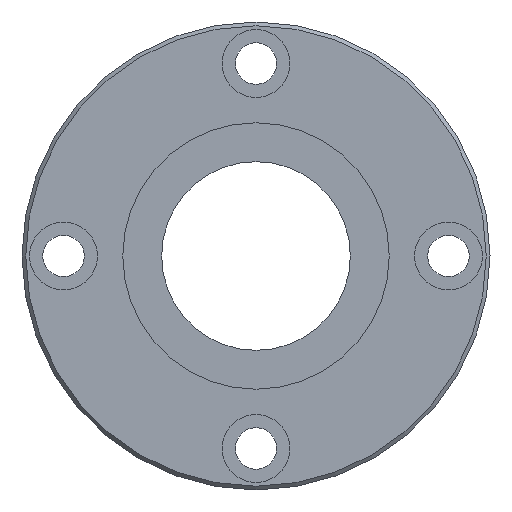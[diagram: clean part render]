
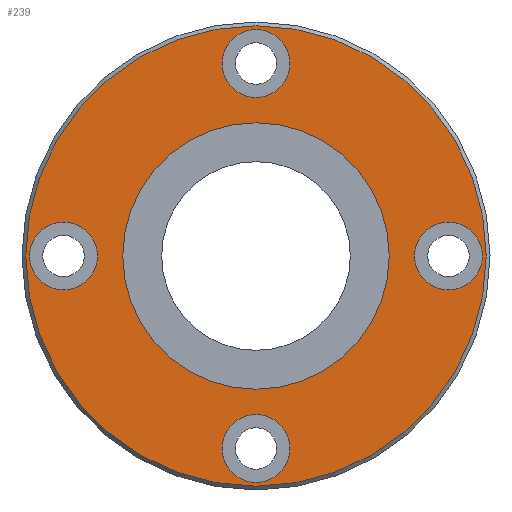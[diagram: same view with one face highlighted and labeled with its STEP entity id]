
A CAD part, left-side view. The second image highlights one B-rep face of the part: STEP entity #239.
In plain terms, the highlighted planar face has unit normal (-1, 0, 0).
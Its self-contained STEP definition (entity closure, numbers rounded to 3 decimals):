
#164=CARTESIAN_POINT('',(0.0,0.,30.5));
#165=VERTEX_POINT('',#164);
#166=CARTESIAN_POINT('',(0.0,0.0,0.0));
#167=DIRECTION('',(1.0,0.0,0.0));
#168=DIRECTION('',(0.0,0.0,-1.0));
#169=AXIS2_PLACEMENT_3D('',#166,#167,#168);
#170=CIRCLE('',#169,30.5);
#171=EDGE_CURVE('',#165,#165,#170,.T.);
#176=CARTESIAN_POINT('',(0.0,0.0,18.825));
#177=DIRECTION('',(-1.0,0.0,0.0));
#178=DIRECTION('',(0.0,0.0,1.0));
#179=AXIS2_PLACEMENT_3D('',#176,#177,#178);
#180=PLANE('',#179);
#181=ORIENTED_EDGE('',*,*,#171,.F.);
#182=EDGE_LOOP('',(#181));
#183=FACE_OUTER_BOUND('',#182,.T.);
#184=CARTESIAN_POINT('',(0.0,0.0,17.65));
#185=VERTEX_POINT('',#184);
#186=CARTESIAN_POINT('',(0.0,0.0,0.0));
#187=DIRECTION('',(-1.0,0.0,0.0));
#188=DIRECTION('',(0.0,0.0,1.0));
#189=AXIS2_PLACEMENT_3D('',#186,#187,#188);
#190=CIRCLE('',#189,17.65);
#191=EDGE_CURVE('',#185,#185,#190,.T.);
#192=ORIENTED_EDGE('',*,*,#191,.F.);
#193=EDGE_LOOP('',(#192));
#194=FACE_BOUND('',#193,.T.);
#195=CARTESIAN_POINT('',(0.0,30.,0.));
#196=VERTEX_POINT('',#195);
#197=CARTESIAN_POINT('',(0.0,25.5,0.));
#198=DIRECTION('',(1.0,0.0,0.0));
#199=DIRECTION('',(0.0,1.0,0.0));
#200=AXIS2_PLACEMENT_3D('',#197,#198,#199);
#201=CIRCLE('',#200,4.5);
#202=EDGE_CURVE('',#196,#196,#201,.T.);
#203=ORIENTED_EDGE('',*,*,#202,.T.);
#204=EDGE_LOOP('',(#203));
#205=FACE_BOUND('',#204,.T.);
#206=CARTESIAN_POINT('',(0.0,-21.0,0.));
#207=VERTEX_POINT('',#206);
#208=CARTESIAN_POINT('',(0.0,-25.5,0.));
#209=DIRECTION('',(1.0,0.0,0.0));
#210=DIRECTION('',(0.0,1.0,0.0));
#211=AXIS2_PLACEMENT_3D('',#208,#209,#210);
#212=CIRCLE('',#211,4.5);
#213=EDGE_CURVE('',#207,#207,#212,.T.);
#214=ORIENTED_EDGE('',*,*,#213,.T.);
#215=EDGE_LOOP('',(#214));
#216=FACE_BOUND('',#215,.T.);
#217=CARTESIAN_POINT('',(0.0,4.5,25.5));
#218=VERTEX_POINT('',#217);
#219=CARTESIAN_POINT('',(0.0,0.,25.5));
#220=DIRECTION('',(1.0,0.0,0.0));
#221=DIRECTION('',(0.0,1.0,0.0));
#222=AXIS2_PLACEMENT_3D('',#219,#220,#221);
#223=CIRCLE('',#222,4.5);
#224=EDGE_CURVE('',#218,#218,#223,.T.);
#225=ORIENTED_EDGE('',*,*,#224,.T.);
#226=EDGE_LOOP('',(#225));
#227=FACE_BOUND('',#226,.T.);
#228=CARTESIAN_POINT('',(0.0,4.5,-25.5));
#229=VERTEX_POINT('',#228);
#230=CARTESIAN_POINT('',(0.0,0.,-25.5));
#231=DIRECTION('',(1.0,0.0,0.0));
#232=DIRECTION('',(0.0,1.0,0.0));
#233=AXIS2_PLACEMENT_3D('',#230,#231,#232);
#234=CIRCLE('',#233,4.5);
#235=EDGE_CURVE('',#229,#229,#234,.T.);
#236=ORIENTED_EDGE('',*,*,#235,.T.);
#237=EDGE_LOOP('',(#236));
#238=FACE_BOUND('',#237,.T.);
#239=ADVANCED_FACE('',(#183,#194,#205,#216,#227,#238),#180,.T.);
